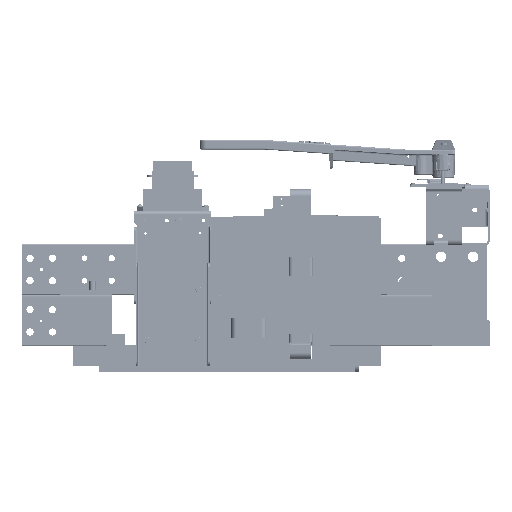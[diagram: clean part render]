
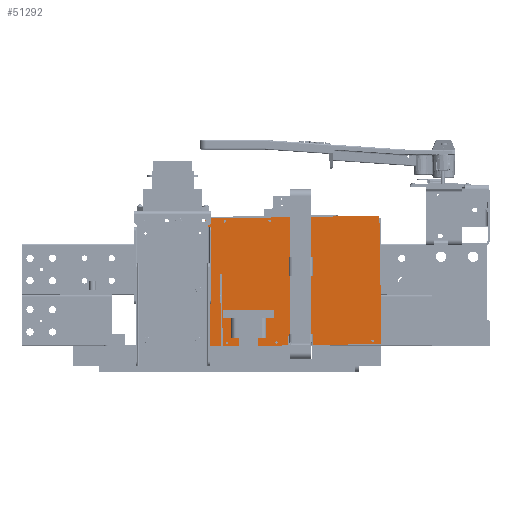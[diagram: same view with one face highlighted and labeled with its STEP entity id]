
A CAD part, left-side view. The second image highlights one B-rep face of the part: STEP entity #51292.
In plain terms, the highlighted planar face has unit normal (-1, 0, 0) as drawn and (0, 0, 1) by its records, which use the part's own axes.
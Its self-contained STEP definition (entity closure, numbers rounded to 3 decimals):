
#2545=FACE_BOUND('',#11719,.T.);
#2546=FACE_BOUND('',#11720,.T.);
#2547=FACE_BOUND('',#11721,.T.);
#2548=FACE_BOUND('',#11722,.T.);
#2549=FACE_BOUND('',#11723,.T.);
#4532=CIRCLE('',#56971,0.097);
#4534=CIRCLE('',#56974,0.097);
#4536=CIRCLE('',#56977,0.097);
#4538=CIRCLE('',#56980,0.097);
#4540=CIRCLE('',#56983,0.097);
#8090=FACE_OUTER_BOUND('',#11718,.T.);
#11718=EDGE_LOOP('',(#43532,#43533,#43534,#43535,#43536,#43537,#43538,#43539,
#43540,#43541,#43542,#43543));
#11719=EDGE_LOOP('',(#43544));
#11720=EDGE_LOOP('',(#43545));
#11721=EDGE_LOOP('',(#43546));
#11722=EDGE_LOOP('',(#43547));
#11723=EDGE_LOOP('',(#43548));
#15943=LINE('',#86131,#20263);
#15946=LINE('',#86137,#20266);
#15949=LINE('',#86143,#20269);
#15952=LINE('',#86149,#20272);
#15955=LINE('',#86155,#20275);
#15958=LINE('',#86161,#20278);
#15961=LINE('',#86167,#20281);
#15964=LINE('',#86173,#20284);
#15967=LINE('',#86179,#20287);
#15970=LINE('',#86185,#20290);
#15973=LINE('',#86191,#20293);
#15976=LINE('',#86195,#20296);
#20263=VECTOR('',#69114,0.394);
#20266=VECTOR('',#69119,0.394);
#20269=VECTOR('',#69124,0.394);
#20272=VECTOR('',#69129,0.394);
#20275=VECTOR('',#69134,0.394);
#20278=VECTOR('',#69139,0.394);
#20281=VECTOR('',#69144,0.394);
#20284=VECTOR('',#69149,0.394);
#20287=VECTOR('',#69154,0.394);
#20290=VECTOR('',#69159,0.394);
#20293=VECTOR('',#69164,0.394);
#20296=VECTOR('',#69169,0.394);
#24682=VERTEX_POINT('',#86097);
#24684=VERTEX_POINT('',#86103);
#24686=VERTEX_POINT('',#86109);
#24688=VERTEX_POINT('',#86115);
#24690=VERTEX_POINT('',#86121);
#24693=VERTEX_POINT('',#86128);
#24694=VERTEX_POINT('',#86130);
#24696=VERTEX_POINT('',#86136);
#24698=VERTEX_POINT('',#86142);
#24700=VERTEX_POINT('',#86148);
#24702=VERTEX_POINT('',#86154);
#24704=VERTEX_POINT('',#86160);
#24706=VERTEX_POINT('',#86166);
#24708=VERTEX_POINT('',#86172);
#24710=VERTEX_POINT('',#86178);
#24712=VERTEX_POINT('',#86184);
#24714=VERTEX_POINT('',#86190);
#31158=EDGE_CURVE('',#24682,#24682,#4532,.T.);
#31161=EDGE_CURVE('',#24684,#24684,#4534,.T.);
#31164=EDGE_CURVE('',#24686,#24686,#4536,.T.);
#31167=EDGE_CURVE('',#24688,#24688,#4538,.T.);
#31170=EDGE_CURVE('',#24690,#24690,#4540,.T.);
#31173=EDGE_CURVE('',#24694,#24693,#15943,.T.);
#31176=EDGE_CURVE('',#24696,#24694,#15946,.T.);
#31179=EDGE_CURVE('',#24698,#24696,#15949,.T.);
#31182=EDGE_CURVE('',#24700,#24698,#15952,.T.);
#31185=EDGE_CURVE('',#24702,#24700,#15955,.T.);
#31188=EDGE_CURVE('',#24704,#24702,#15958,.T.);
#31191=EDGE_CURVE('',#24706,#24704,#15961,.T.);
#31194=EDGE_CURVE('',#24708,#24706,#15964,.T.);
#31197=EDGE_CURVE('',#24710,#24708,#15967,.T.);
#31200=EDGE_CURVE('',#24712,#24710,#15970,.T.);
#31203=EDGE_CURVE('',#24714,#24712,#15973,.T.);
#31206=EDGE_CURVE('',#24693,#24714,#15976,.T.);
#43532=ORIENTED_EDGE('',*,*,#31206,.T.);
#43533=ORIENTED_EDGE('',*,*,#31203,.T.);
#43534=ORIENTED_EDGE('',*,*,#31200,.T.);
#43535=ORIENTED_EDGE('',*,*,#31197,.T.);
#43536=ORIENTED_EDGE('',*,*,#31194,.T.);
#43537=ORIENTED_EDGE('',*,*,#31191,.T.);
#43538=ORIENTED_EDGE('',*,*,#31188,.T.);
#43539=ORIENTED_EDGE('',*,*,#31185,.T.);
#43540=ORIENTED_EDGE('',*,*,#31182,.T.);
#43541=ORIENTED_EDGE('',*,*,#31179,.T.);
#43542=ORIENTED_EDGE('',*,*,#31176,.T.);
#43543=ORIENTED_EDGE('',*,*,#31173,.T.);
#43544=ORIENTED_EDGE('',*,*,#31158,.T.);
#43545=ORIENTED_EDGE('',*,*,#31161,.T.);
#43546=ORIENTED_EDGE('',*,*,#31164,.T.);
#43547=ORIENTED_EDGE('',*,*,#31167,.T.);
#43548=ORIENTED_EDGE('',*,*,#31170,.T.);
#48864=PLANE('',#56996);
#51292=ADVANCED_FACE('',(#8090,#2545,#2546,#2547,#2548,#2549),#48864,.T.);
#56971=AXIS2_PLACEMENT_3D('',#86099,#69080,#69081);
#56974=AXIS2_PLACEMENT_3D('',#86105,#69087,#69088);
#56977=AXIS2_PLACEMENT_3D('',#86111,#69094,#69095);
#56980=AXIS2_PLACEMENT_3D('',#86117,#69101,#69102);
#56983=AXIS2_PLACEMENT_3D('',#86123,#69108,#69109);
#56996=AXIS2_PLACEMENT_3D('',#86196,#69170,#69171);
#69080=DIRECTION('center_axis',(0.,0.,-1.));
#69081=DIRECTION('ref_axis',(-1.,0.,0.));
#69087=DIRECTION('center_axis',(0.,0.,-1.));
#69088=DIRECTION('ref_axis',(-1.,0.,0.));
#69094=DIRECTION('center_axis',(0.,0.,-1.));
#69095=DIRECTION('ref_axis',(-1.,0.,0.));
#69101=DIRECTION('center_axis',(0.,0.,-1.));
#69102=DIRECTION('ref_axis',(-1.,0.,0.));
#69108=DIRECTION('center_axis',(0.,0.,-1.));
#69109=DIRECTION('ref_axis',(-1.,0.,0.));
#69114=DIRECTION('',(1.,0.,0.));
#69119=DIRECTION('',(0.,-1.,0.));
#69124=DIRECTION('',(-1.,0.,0.));
#69129=DIRECTION('',(0.,1.,0.));
#69134=DIRECTION('',(1.,0.,0.));
#69139=DIRECTION('',(0.,-1.,0.));
#69144=DIRECTION('',(-1.,0.,0.));
#69149=DIRECTION('',(0.,-1.,0.));
#69154=DIRECTION('',(1.,0.,0.));
#69159=DIRECTION('',(0.,-1.,0.));
#69164=DIRECTION('',(-1.,0.,0.));
#69169=DIRECTION('',(0.,-1.,0.));
#69170=DIRECTION('center_axis',(0.,0.,1.));
#69171=DIRECTION('ref_axis',(1.,0.,0.));
#86097=CARTESIAN_POINT('',(0.347,12.063,0.125));
#86099=CARTESIAN_POINT('Origin',(0.25,12.063,0.125));
#86103=CARTESIAN_POINT('',(0.347,8.187,0.125));
#86105=CARTESIAN_POINT('Origin',(0.25,8.187,0.125));
#86109=CARTESIAN_POINT('',(0.347,0.688,0.125));
#86111=CARTESIAN_POINT('Origin',(0.25,0.688,0.125));
#86115=CARTESIAN_POINT('',(9.847,12.062,0.125));
#86117=CARTESIAN_POINT('Origin',(9.75,12.062,0.125));
#86121=CARTESIAN_POINT('',(9.847,8.562,0.125));
#86123=CARTESIAN_POINT('Origin',(9.75,8.562,0.125));
#86128=CARTESIAN_POINT('',(5.688,12.5,0.125));
#86130=CARTESIAN_POINT('',(0.,12.5,0.125));
#86131=CARTESIAN_POINT('',(0.,12.5,0.125));
#86136=CARTESIAN_POINT('',(0.,13.625,0.125));
#86137=CARTESIAN_POINT('',(0.,13.625,0.125));
#86142=CARTESIAN_POINT('',(10.,13.625,0.125));
#86143=CARTESIAN_POINT('',(10.,13.625,0.125));
#86148=CARTESIAN_POINT('',(10.,0.,0.125));
#86149=CARTESIAN_POINT('',(10.,0.,0.125));
#86154=CARTESIAN_POINT('',(0.,0.,0.125));
#86155=CARTESIAN_POINT('',(0.,0.,0.125));
#86160=CARTESIAN_POINT('',(0.,5.312,0.125));
#86161=CARTESIAN_POINT('',(0.,5.312,0.125));
#86166=CARTESIAN_POINT('',(0.75,5.312,0.125));
#86167=CARTESIAN_POINT('',(0.75,5.312,0.125));
#86172=CARTESIAN_POINT('',(0.75,7.25,0.125));
#86173=CARTESIAN_POINT('',(0.75,7.25,0.125));
#86178=CARTESIAN_POINT('',(0.,7.25,0.125));
#86179=CARTESIAN_POINT('',(0.,7.25,0.125));
#86184=CARTESIAN_POINT('',(0.,12.375,0.125));
#86185=CARTESIAN_POINT('',(0.,12.375,0.125));
#86190=CARTESIAN_POINT('',(5.688,12.375,0.125));
#86191=CARTESIAN_POINT('',(5.688,12.375,0.125));
#86195=CARTESIAN_POINT('',(5.688,12.5,0.125));
#86196=CARTESIAN_POINT('Origin',(4.513,7.864,0.125));
